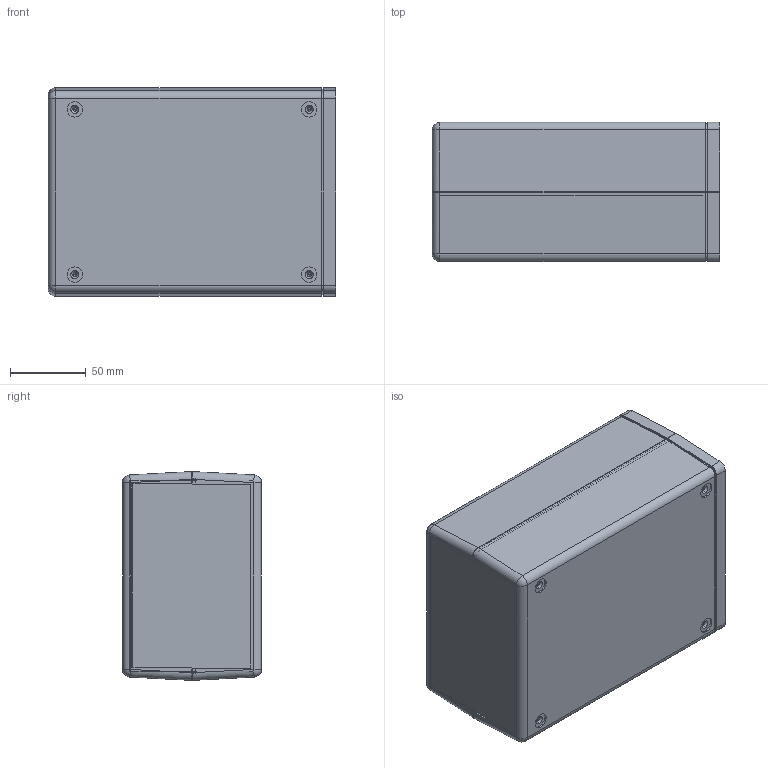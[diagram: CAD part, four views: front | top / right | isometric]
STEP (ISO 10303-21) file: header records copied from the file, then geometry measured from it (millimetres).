
FILE_DESCRIPTION (( 'STEP AP214' ), '1' );
FILE_NAME ('UOOL-220.STEP', '2020-05-22T22:46:19', ( 'Rudy' ), ( '' ), 'SwSTEP 2.0', 'SolidWorks 2014', '' );
FILE_SCHEMA (( 'AUTOMOTIVE_DESIGN' ));
Length unit declared in the file: inch
Products named in the file (4): UOOL 220 PANEL; UOOL-top deep; UOOL-bottom deep; UOOL-220
Assembly tree (4 placements, depth 2):
  UOOL-220
    UOOL-bottom deep
    UOOL-top deep
    UOOL 220 PANEL  x2
Bounding box: 189.84 x 91.69 x 137.79 mm (x, y, z)
Volume: 335199.3 mm3; surface area: 243733.6 mm2
Topology: 4 solids, 4 shells, 1017 faces, 2609 edges, 1636 vertices
Faces by surface type: plane 424, cylinder 395, torus 118, cone 44, bspline 32, sphere 4
Entity records: 31994 total; most frequent: CARTESIAN_POINT 6950, DIRECTION 5407, ORIENTED_EDGE 5186, EDGE_CURVE 2593, AXIS2_PLACEMENT_3D 1992, VERTEX_POINT 1628, LINE 1423, VECTOR 1423
